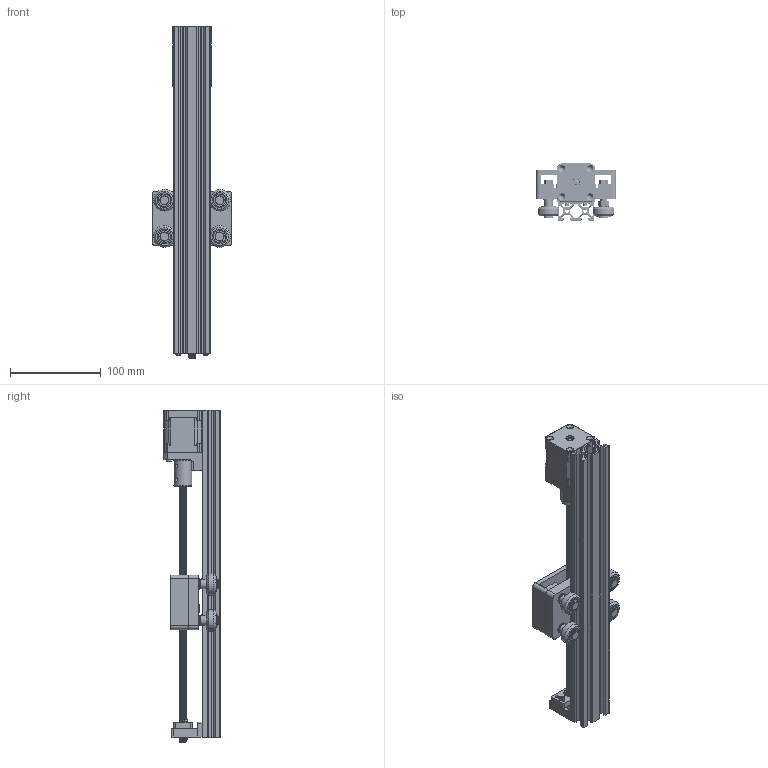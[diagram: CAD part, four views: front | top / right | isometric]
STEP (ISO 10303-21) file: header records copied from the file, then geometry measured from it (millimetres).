
FILE_DESCRIPTION(/* description */ (''),/* implementation_level */ '2;1');
FILE_NAME(/* name */ 'Assieme_guida.stp',/* time_stamp */ '2024-11-17T20:25:01+01:00',/* author */ ('R5800u'),/* organization */ (''),/* preprocessor_version */ 'ST-DEVELOPER v20',/* originating_system */ 'Autodesk Inventor 2025',/* authorisation */ '');
FILE_SCHEMA (('AUTOMOTIVE_DESIGN { 1 0 10303 214 3 1 1 }'));
Products named in the file (31): Assieme_guida; V-Slot 20x40_Demo; Nema_17_PHB42S48-401; Parte2; AS 1420 - 1973 - M3 x 12; AS 1420 - 1973 - M3 x 20; AS 1420 - 1973 - M4 x 12; t8-lead-screw v5; t8-lead-screw v5_1; t8-lead-screw v5_1_1; t8-lead-screw v5_22; %3% BS 290 - SKF 618/8; BARRA FILETTATA T8; GIUNTO 8-5; Gantry v1; 8mm Acme Anti Backlash Nut Bloc; piano; ruota_eccentrica; Eccentric Spacer 6mm; ruota; Aluminum Spacer 6mm; Precision Shim 10 x 5 x 1; Ball Bearing 5 x 16 x 5; Xtreme Solid V Wheel; Shim Washer 8mm; AS 1420 - 1973 - M5 x 20; vite_testa_piatta_M5; PIATTO_SUPERIORE; AS 1112 - M5  Tipo 5; AS 1427 - M3 x 20; AS 1112 - M3  Tipo 5
Assembly tree (52 placements, depth 4):
  Assieme_guida
    V-Slot 20x40_Demo
    Nema_17_PHB42S48-401
    Parte2
    AS 1420 - 1973 - M3 x 12  x2
    AS 1420 - 1973 - M3 x 20  x2
    AS 1420 - 1973 - M4 x 12  x2
    t8-lead-screw v5
      t8-lead-screw v5_1
      t8-lead-screw v5_1_1
      t8-lead-screw v5_22
      %3% BS 290 - SKF 618/8
    BARRA FILETTATA T8
    GIUNTO 8-5
    Gantry v1
      8mm Acme Anti Backlash Nut Bloc
      piano
      ruota_eccentrica  x2
        Precision Shim 10 x 5 x 1
        Eccentric Spacer 6mm
        Ball Bearing 5 x 16 x 5
        Xtreme Solid V Wheel
      ruota  x2
        Aluminum Spacer 6mm
        Precision Shim 10 x 5 x 1
        Ball Bearing 5 x 16 x 5
        Xtreme Solid V Wheel
        Shim Washer 8mm
    AS 1420 - 1973 - M5 x 20  x2
    AS 1112 - M5  Tipo 5  x7
    vite_testa_piatta_M5  x4
    PIATTO_SUPERIORE
    AS 1427 - M3 x 20  x2
    AS 1112 - M3  Tipo 5  x2
Bounding box: 88 x 62.3 x 365.5 mm (x, y, z)
Volume: 347851.8 mm3; surface area: 223703.5 mm2
Topology: 57 solids, 57 shells, 1511 faces, 3899 edges, 2539 vertices
Faces by surface type: cylinder 600, plane 599, cone 207, torus 80, sphere 23, bspline 2
Full cylindrical faces by diameter (mm): 2.387 x2, 2.459 x2, 2.5 x4, 3 x8, 3.1 x2, 3.2 x4, 3.242 x4, 4 x2, 4.134 x7, 4.2 x3, 4.3 x2, 4.5 x4, 5 x30, 5.1 x4, 5.3 x6, 5.5 x76, 6 x1, 6.5 x4, 6.75 x2, 7 x2, 7.11 x2, 8 x71, 8.5 x4, 8.6 x16, 9 x3, 10 x12, 10.56 x2, 10.795 x2, 11.8 x2, 12.7 x1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
Entity records: 52605 total; most frequent: CARTESIAN_POINT 24312, ORIENTED_EDGE 6016, DIRECTION 5166, EDGE_CURVE 3008, VERTEX_POINT 2011, AXIS2_PLACEMENT_3D 1871, LINE 1424, VECTOR 1424
